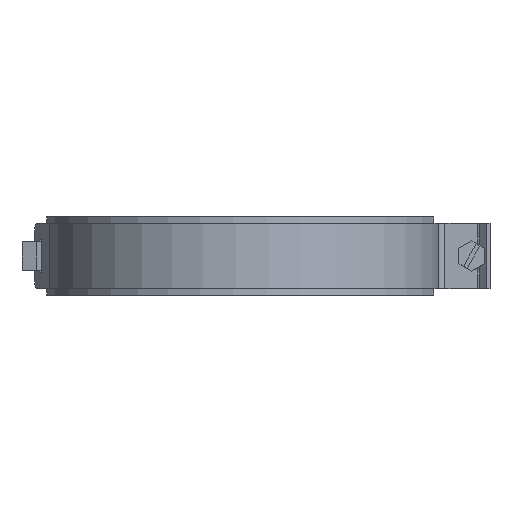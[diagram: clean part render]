
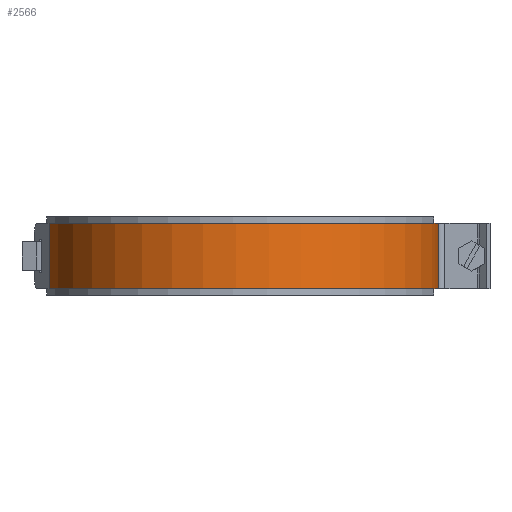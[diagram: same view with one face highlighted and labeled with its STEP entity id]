
A CAD part, front view. The second image highlights one B-rep face of the part: STEP entity #2566.
In plain terms, the highlighted cylindrical face has radius 75.5 mm (diameter 151 mm), a partial arc.
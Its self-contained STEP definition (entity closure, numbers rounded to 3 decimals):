
#88=CYLINDRICAL_SURFACE($,#2794,75.5);
#190=FACE_OUTER_BOUND($,#327,.T.);
#327=EDGE_LOOP($,(#2033,#2034,#2035,#2036,#2037,#2038));
#420=CIRCLE($,#2689,75.5);
#422=CIRCLE($,#2692,75.5);
#441=CIRCLE($,#2733,75.5);
#465=CIRCLE($,#2795,75.5);
#654=LINE($,#4140,#897);
#660=LINE($,#4162,#903);
#897=VECTOR($,#3379,25.);
#903=VECTOR($,#3409,25.);
#1043=VERTEX_POINT($,#3815);
#1044=VERTEX_POINT($,#3817);
#1047=VERTEX_POINT($,#3825);
#1048=VERTEX_POINT($,#3826);
#1089=VERTEX_POINT($,#3954);
#1155=VERTEX_POINT($,#4161);
#1309=EDGE_CURVE($,#1043,#1044,#420,.T.);
#1313=EDGE_CURVE($,#1047,#1048,#422,.T.);
#1378=EDGE_CURVE($,#1044,#1089,#441,.T.);
#1463=EDGE_CURVE($,#1043,#1048,#654,.T.);
#1474=EDGE_CURVE($,#1089,#1155,#660,.T.);
#1475=EDGE_CURVE($,#1155,#1047,#465,.T.);
#2033=ORIENTED_EDGE($,*,*,#1474,.F.);
#2034=ORIENTED_EDGE($,*,*,#1378,.F.);
#2035=ORIENTED_EDGE($,*,*,#1309,.F.);
#2036=ORIENTED_EDGE($,*,*,#1463,.T.);
#2037=ORIENTED_EDGE($,*,*,#1313,.F.);
#2038=ORIENTED_EDGE($,*,*,#1475,.F.);
#2566=ADVANCED_FACE($,(#190),#88,.T.);
#2689=AXIS2_PLACEMENT_3D($,#3818,#3080,#3081);
#2692=AXIS2_PLACEMENT_3D($,#3827,#3088,#3089);
#2733=AXIS2_PLACEMENT_3D($,#3955,#3216,#3217);
#2794=AXIS2_PLACEMENT_3D($,#4160,#3407,#3408);
#2795=AXIS2_PLACEMENT_3D($,#4163,#3410,#3411);
#3080=DIRECTION('center_axis',(0.,0.,1.));
#3081=DIRECTION('ref_axis',(0.98,0.199,0.));
#3088=DIRECTION('center_axis',(0.,0.,-1.));
#3089=DIRECTION('ref_axis',(0.98,0.199,0.));
#3216=DIRECTION('center_axis',(0.,0.,1.));
#3217=DIRECTION('ref_axis',(0.98,0.199,0.));
#3379=DIRECTION($,(0.,0.,-1.));
#3407=DIRECTION('center_axis',(0.,0.,1.));
#3408=DIRECTION('ref_axis',(0.98,0.199,0.));
#3409=DIRECTION($,(0.,0.,-1.));
#3410=DIRECTION('center_axis',(0.,0.,-1.));
#3411=DIRECTION('ref_axis',(0.98,0.199,0.));
#3815=CARTESIAN_POINT('',(-73.984,-15.052,12.5));
#3817=CARTESIAN_POINT('',(72.927,-19.541,12.5));
#3818=CARTESIAN_POINT('Origin',(0.,0.,12.5));
#3825=CARTESIAN_POINT('',(72.927,-19.541,-12.5));
#3826=CARTESIAN_POINT('',(-73.984,-15.052,-12.5));
#3827=CARTESIAN_POINT('Origin',(0.,0.,-12.5));
#3954=CARTESIAN_POINT('',(75.237,-6.292,12.5));
#3955=CARTESIAN_POINT('Origin',(0.,0.,12.5));
#4140=CARTESIAN_POINT($,(-73.984,-15.052,0.));
#4160=CARTESIAN_POINT('Origin',(0.,0.,0.));
#4161=CARTESIAN_POINT('',(75.237,-6.292,-12.5));
#4162=CARTESIAN_POINT($,(75.237,-6.292,0.));
#4163=CARTESIAN_POINT('Origin',(0.,0.,-12.5));
